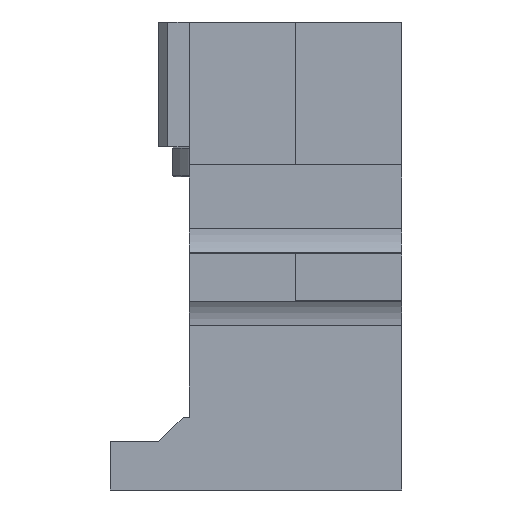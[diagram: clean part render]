
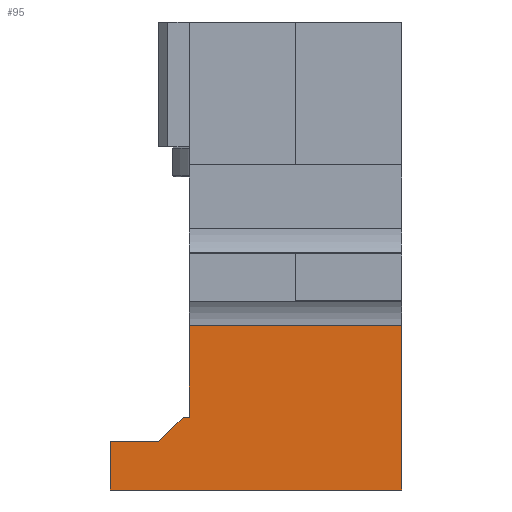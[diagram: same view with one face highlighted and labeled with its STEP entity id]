
A CAD part, left-side view. The second image highlights one B-rep face of the part: STEP entity #95.
In plain terms, the highlighted planar face has unit normal (-1, 0, 0).
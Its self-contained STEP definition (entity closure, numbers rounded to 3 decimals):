
#95 = ADVANCED_FACE ( 'NONE', ( #3028 ), #10916, .F. ) ;
#194 = EDGE_CURVE ( 'NONE', #3174, #3971, #4721, .T. ) ;
#291 = CARTESIAN_POINT ( 'NONE',  ( -50., 22., -87.992 ) ) ;
#870 = DIRECTION ( 'NONE',  ( 0., 1., 0. ) ) ;
#1520 = LINE ( 'NONE', #11285, #11315 ) ;
#1868 = LINE ( 'NONE', #5769, #4788 ) ;
#2103 = VECTOR ( 'NONE', #9682, 1000. ) ;
#2355 = ORIENTED_EDGE ( 'NONE', *, *, #5473, .T. ) ;
#2531 = EDGE_LOOP ( 'NONE', ( #7516, #6570, #4234, #2355, #2785, #7001, #10354, #7852 ) ) ;
#2784 = EDGE_CURVE ( 'NONE', #3497, #3971, #4650, .T. ) ;
#2785 = ORIENTED_EDGE ( 'NONE', *, *, #194, .T. ) ;
#2838 = VERTEX_POINT ( 'NONE', #10553 ) ;
#3028 = FACE_OUTER_BOUND ( 'NONE', #2531, .T. ) ;
#3174 = VERTEX_POINT ( 'NONE', #6202 ) ;
#3460 = DIRECTION ( 'NONE',  ( 0., 1., 0. ) ) ;
#3497 = VERTEX_POINT ( 'NONE', #9539 ) ;
#3658 = EDGE_CURVE ( 'NONE', #3497, #8846, #1868, .T. ) ;
#3809 = CARTESIAN_POINT ( 'NONE',  ( -50., -50., -126. ) ) ;
#3971 = VERTEX_POINT ( 'NONE', #291 ) ;
#3976 = VERTEX_POINT ( 'NONE', #7119 ) ;
#4016 = CARTESIAN_POINT ( 'NONE',  ( -50., 32., -126. ) ) ;
#4111 = VERTEX_POINT ( 'NONE', #5481 ) ;
#4160 = CARTESIAN_POINT ( 'NONE',  ( -50., 24., -118. ) ) ;
#4234 = ORIENTED_EDGE ( 'NONE', *, *, #5639, .F. ) ;
#4442 = VECTOR ( 'NONE', #5247, 1000. ) ;
#4532 = DIRECTION ( 'NONE',  ( 0., 0., 1. ) ) ;
#4598 = CARTESIAN_POINT ( 'NONE',  ( -50., 22., -126. ) ) ;
#4650 = LINE ( 'NONE', #4598, #12432 ) ;
#4721 = LINE ( 'NONE', #9467, #2103 ) ;
#4785 = DIRECTION ( 'NONE',  ( 0., 1., 0. ) ) ;
#4788 = VECTOR ( 'NONE', #11640, 1000. ) ;
#5155 = EDGE_CURVE ( 'NONE', #4111, #8846, #10110, .T. ) ;
#5247 = DIRECTION ( 'NONE',  ( 0., 0., 1. ) ) ;
#5473 = EDGE_CURVE ( 'NONE', #3976, #3174, #7025, .T. ) ;
#5481 = CARTESIAN_POINT ( 'NONE',  ( -50., 32., -126. ) ) ;
#5639 = EDGE_CURVE ( 'NONE', #3976, #2838, #1520, .T. ) ;
#5769 = CARTESIAN_POINT ( 'NONE',  ( -50., 22., -118. ) ) ;
#6202 = CARTESIAN_POINT ( 'NONE',  ( -50., -48., -87.992 ) ) ;
#6570 = ORIENTED_EDGE ( 'NONE', *, *, #10771, .F. ) ;
#6838 = VERTEX_POINT ( 'NONE', #12170 ) ;
#7001 = ORIENTED_EDGE ( 'NONE', *, *, #2784, .F. ) ;
#7025 = LINE ( 'NONE', #10098, #4442 ) ;
#7119 = CARTESIAN_POINT ( 'NONE',  ( -50., -48., -142. ) ) ;
#7516 = ORIENTED_EDGE ( 'NONE', *, *, #9172, .T. ) ;
#7852 = ORIENTED_EDGE ( 'NONE', *, *, #5155, .F. ) ;
#8415 = CARTESIAN_POINT ( 'NONE',  ( -50., 48., -142. ) ) ;
#8649 = DIRECTION ( 'NONE',  ( 1., 0., 0. ) ) ;
#8846 = VERTEX_POINT ( 'NONE', #4160 ) ;
#8881 = DIRECTION ( 'NONE',  ( 0., -0.707, 0.707 ) ) ;
#9172 = EDGE_CURVE ( 'NONE', #4111, #6838, #9729, .T. ) ;
#9371 = VECTOR ( 'NONE', #4532, 1000. ) ;
#9467 = CARTESIAN_POINT ( 'NONE',  ( -50., 22., -87.992 ) ) ;
#9539 = CARTESIAN_POINT ( 'NONE',  ( -50., 22., -118. ) ) ;
#9682 = DIRECTION ( 'NONE',  ( 0., 1., 0. ) ) ;
#9729 = LINE ( 'NONE', #3809, #10039 ) ;
#10039 = VECTOR ( 'NONE', #4785, 1000. ) ;
#10098 = CARTESIAN_POINT ( 'NONE',  ( -50., -48., -126. ) ) ;
#10110 = LINE ( 'NONE', #4016, #12700 ) ;
#10354 = ORIENTED_EDGE ( 'NONE', *, *, #3658, .T. ) ;
#10553 = CARTESIAN_POINT ( 'NONE',  ( -50., 48., -142. ) ) ;
#10623 = CARTESIAN_POINT ( 'NONE',  ( -50., 22., -126. ) ) ;
#10771 = EDGE_CURVE ( 'NONE', #2838, #6838, #11980, .T. ) ;
#10916 = PLANE ( 'NONE',  #10986 ) ;
#10986 = AXIS2_PLACEMENT_3D ( 'NONE', #10623, #8649, #870 ) ;
#11285 = CARTESIAN_POINT ( 'NONE',  ( -50., -50., -142. ) ) ;
#11315 = VECTOR ( 'NONE', #3460, 1000. ) ;
#11441 = DIRECTION ( 'NONE',  ( 0., 0., 1. ) ) ;
#11640 = DIRECTION ( 'NONE',  ( 0., 1., 0. ) ) ;
#11980 = LINE ( 'NONE', #8415, #9371 ) ;
#12170 = CARTESIAN_POINT ( 'NONE',  ( -50., 48., -126. ) ) ;
#12432 = VECTOR ( 'NONE', #11441, 1000. ) ;
#12700 = VECTOR ( 'NONE', #8881, 1000. ) ;
